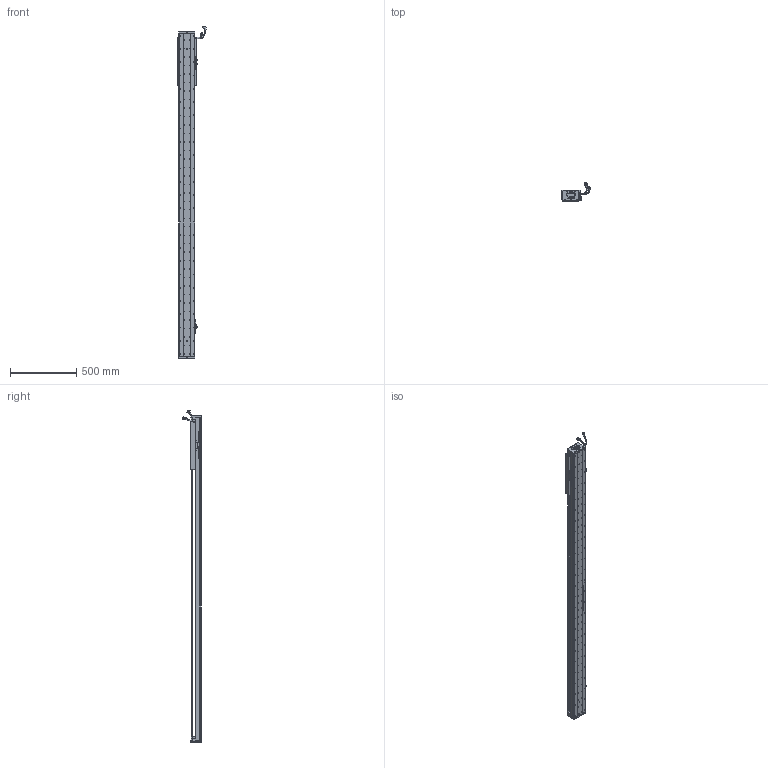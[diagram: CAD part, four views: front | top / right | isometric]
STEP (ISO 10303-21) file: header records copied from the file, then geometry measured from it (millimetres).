
FILE_DESCRIPTION (( 'STEP AP203' ), '1' );
FILE_NAME ('Z5-RY120D-1-L500-B-K.SLDASM_2000.step', '2021-05-17T06:24:28', ( '盈信电脑' ), ( '东莞市道滘镇水果街19号' ), 'SwSTEP 2.0', 'SolidWorks 2016', '' );
FILE_SCHEMA (( 'CONFIG_CONTROL_DESIGN' ));
Length unit declared in the file: millimetre
Products named in the file (37): 080黍杅芛假蚾釱21遴; SEAL-Part-1; Z5-RY120-L500詩湍100mm遵_2000; SCALE; SCREW-M1.6-1; SCALE-Part-1; 140蚥薯蝶輸; SCREW-M1.7-1; SEAL; Z-120詩湍傷裔啣; COVER-Part-1; SHIELDPLATE; Z5-RY120D-1-L500-B-K.SLDASM_2000; PSLH080_PSLF2; PBU_SHEET; 672嫖萇羲壽假蚾釱; SCREW-M1.7; Z5-RY120-500-倰第菁釱_2000; HARNESS; Z-RY120D詩湍狟揤裔; HARNESS-Part-2; SCREW-M1.6-2; 榋妏寠巭燃_暯_M2_2; 140雄赽晤鎢ん堤盄; SCREW-M1.6; Z5-RY120铝滑块（21款）; HARNESS-Part-1; RY100FB-遵嫖萇覜茼え; COVER; Z-RY120D詩湍奻揤裔; SCALE-Part-2; SCREW-M1.6-3; LABEL; HOLDER0; 覜茼ん672; LABEL-Part-1; 120-Z-臏賑輸盄裔(21遴)
Assembly tree (43 placements, depth 4):
  Z5-RY120D-1-L500-B-K.SLDASM_2000
    Z5-RY120-500-倰第菁釱_2000
    覜茼ん672  x3
    672嫖萇羲壽假蚾釱  x2
    Z5-RY120铝滑块（21款）
    PSLH080_PSLF2
      SCALE
        SCALE-Part-1
        SCALE-Part-2
      HARNESS
        HARNESS-Part-1
        HARNESS-Part-2
      LABEL
        LABEL-Part-1
      COVER
        COVER-Part-1
      SEAL
        SEAL-Part-1
      榋妏寠巭燃_暯_M2_2
      SHIELDPLATE
      SCREW-M1.7
      SCREW-M1.7-1
      PBU_SHEET
      SCREW-M1.6
      SCREW-M1.6-1
      SCREW-M1.6-2
      SCREW-M1.6-3
      HOLDER0
    080黍杅芛假蚾釱21遴
    120-Z-臏賑輸盄裔(21遴)
    140雄赽晤鎢ん堤盄
    140蚥薯蝶輸  x2
    RY100FB-遵嫖萇覜茼え
    Z-120詩湍傷裔啣  x2
    Z-RY120D詩湍奻揤裔  x2
    Z-RY120D詩湍狟揤裔  x2
    Z5-RY120-L500詩湍100mm遵_2000
Bounding box: 222.88 x 140.94 x 2503.99 mm (x, y, z)
Volume: 6274948.8 mm3; surface area: 2126367 mm2
Topology: 38 solids, 38 shells, 3681 faces, 10429 edges, 6586 vertices
Faces by surface type: cylinder 1935, plane 1250, cone 374, torus 69, bspline 53
Entity records: 122676 total; most frequent: CARTESIAN_POINT 37073, ORIENTED_EDGE 17634, DIRECTION 16309, EDGE_CURVE 8817, AXIS2_PLACEMENT_3D 6048, VERTEX_POINT 5706, VECTOR 4213, LINE 4213
